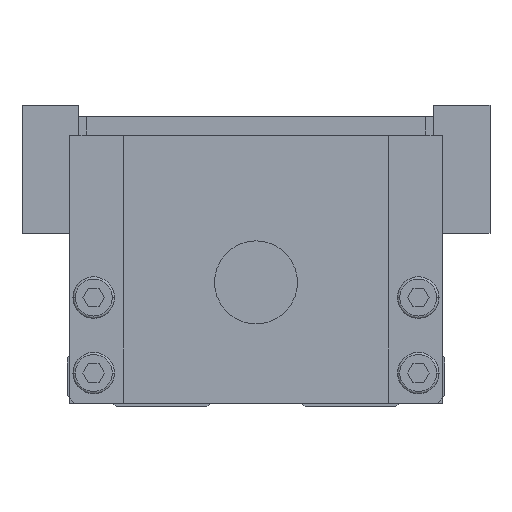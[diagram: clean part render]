
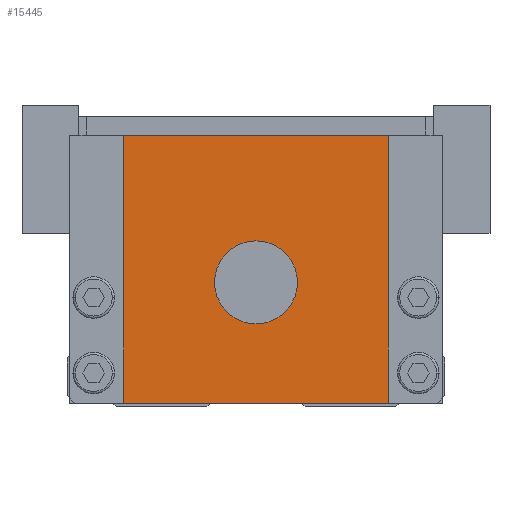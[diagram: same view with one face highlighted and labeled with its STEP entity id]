
A CAD part, front view. The second image highlights one B-rep face of the part: STEP entity #15445.
In plain terms, the highlighted planar face has unit normal (0, -1, 0).
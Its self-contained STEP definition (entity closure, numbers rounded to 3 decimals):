
#6381=EDGE_CURVE('',#8723,#9109,#18872,.T.);
#6415=EDGE_CURVE('',#18473,#8723,#18910,.T.);
#7785=EDGE_CURVE('',#9909,#18473,#20427,.T.);
#8723=VERTEX_POINT('',#21477);
#9109=VERTEX_POINT('',#21895);
#9441=EDGE_CURVE('',#10061,#14553,#22267,.T.);
#9909=VERTEX_POINT('',#22776);
#10061=VERTEX_POINT('',#22951);
#12163=EDGE_CURVE('',#14553,#10061,#25286,.T.);
#14553=VERTEX_POINT('',#27943);
#15445=ADVANCED_FACE('',(#28925,#28926),#28927,.F.);
#17919=EDGE_CURVE('',#9909,#9109,#31699,.T.);
#18473=VERTEX_POINT('',#32314);
#18872=LINE('',#32787,#32788);
#18910=LINE('',#32843,#32844);
#20427=LINE('',#35043,#35044);
#21477=CARTESIAN_POINT('',(17.5,0.0,0.5));
#21895=CARTESIAN_POINT('',(-17.5,0.0,0.5));
#22267=CIRCLE('',#37652,5.5);
#22776=CARTESIAN_POINT('',(-17.5,0.0,36.0));
#22951=CARTESIAN_POINT('',(5.5,0.0,16.5));
#25286=CIRCLE('',#42042,5.5);
#27943=CARTESIAN_POINT('',(-5.5,0.0,16.5));
#28925=FACE_BOUND('',#47424,.T.);
#28926=FACE_OUTER_BOUND('',#47425,.T.);
#28927=PLANE('',#47426);
#31699=LINE('',#51363,#51364);
#32314=CARTESIAN_POINT('',(17.5,0.0,36.0));
#32787=CARTESIAN_POINT('',(0.0,0.0,0.5));
#32788=VECTOR('',#52737,1.0);
#32843=CARTESIAN_POINT('',(17.5,0.0,18.25));
#32844=VECTOR('',#52771,1.0);
#35043=CARTESIAN_POINT('',(0.0,0.0,36.0));
#35044=VECTOR('',#54549,1.0);
#37652=AXIS2_PLACEMENT_3D('',#56602,#56603,#56604);
#42042=AXIS2_PLACEMENT_3D('',#60058,#60059,#60060);
#47424=EDGE_LOOP('',(#64275,#64276));
#47425=EDGE_LOOP('',(#64277,#64278,#64279,#64280));
#47426=AXIS2_PLACEMENT_3D('',#64281,#64282,#64283);
#51363=CARTESIAN_POINT('',(-17.5,0.0,18.25));
#51364=VECTOR('',#67383,1.0);
#52737=DIRECTION('',(-1.0,0.0,0.0));
#52771=DIRECTION('',(0.0,0.0,-1.0));
#54549=DIRECTION('',(1.0,0.0,0.0));
#56602=CARTESIAN_POINT('',(0.0,0.0,16.5));
#56603=DIRECTION('',(-0.0,1.0,0.0));
#56604=DIRECTION('',(1.0,0.0,0.0));
#60058=CARTESIAN_POINT('',(0.0,0.0,16.5));
#60059=DIRECTION('',(-0.0,1.0,0.0));
#60060=DIRECTION('',(1.0,0.0,0.0));
#64275=ORIENTED_EDGE('',*,*,#9441,.T.);
#64276=ORIENTED_EDGE('',*,*,#12163,.T.);
#64277=ORIENTED_EDGE('',*,*,#17919,.T.);
#64278=ORIENTED_EDGE('',*,*,#6381,.F.);
#64279=ORIENTED_EDGE('',*,*,#6415,.F.);
#64280=ORIENTED_EDGE('',*,*,#7785,.F.);
#64281=CARTESIAN_POINT('',(0.0,0.0,18.25));
#64282=DIRECTION('',(0.0,1.0,0.0));
#64283=DIRECTION('',(0.0,0.0,1.0));
#67383=DIRECTION('',(0.0,0.0,-1.0));
